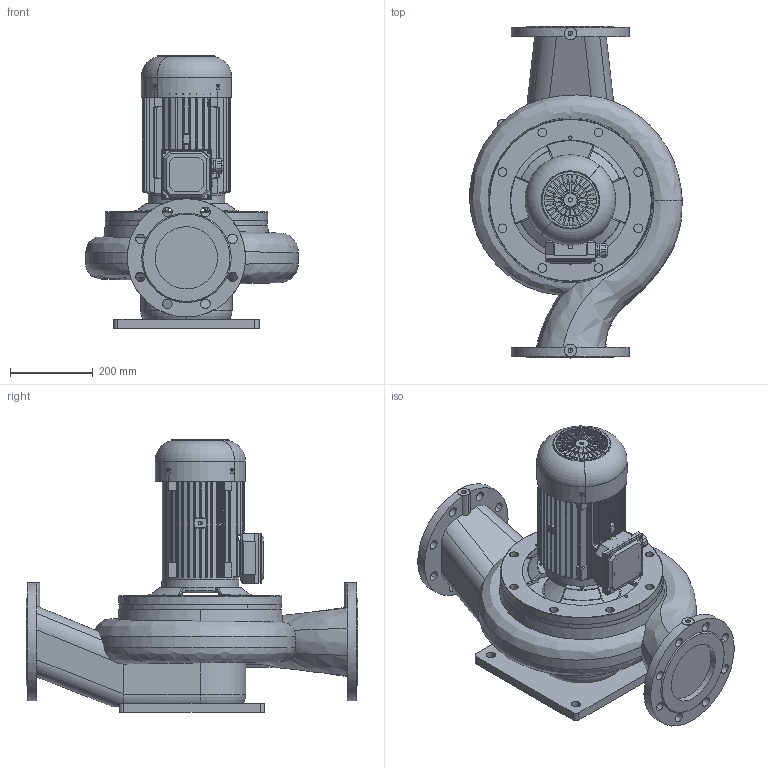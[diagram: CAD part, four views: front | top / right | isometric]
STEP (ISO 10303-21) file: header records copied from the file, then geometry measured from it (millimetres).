
FILE_DESCRIPTION(('STEP AP214'),'1');
FILE_NAME('export.stp','2018-05-28T12:03:01',(' '),(' '),'Spatial InterOp 3D',' ',' ');
FILE_SCHEMA(('AUTOMOTIVE_DESIGN { 1 0 10303 214 1 1 1 1 }'));
Length unit declared in the file: millimetre
Products named in the file (16): W_ALP11534400KP11; V_TLL100SAL1202; V_PPALP1153; PPALP1153_Kesken; Tukijalka_ALP1128; 440017; 440016; V_MKP112_2_F31; 480018; 480017; 440018; 440021; 480022; 480020; M25_Blind_Plug; M25_tiivisteholkk
Assembly tree (15 placements, depth 4):
  W_ALP11534400KP11
    V_TLL100SAL1202
    V_PPALP1153
      PPALP1153_Kesken
      Tukijalka_ALP1128
    V_MKP112_2_F31
      440017
        440016
      480018
        480017
      440018
      440021
      480022
      480020
      M25_Blind_Plug
      M25_tiivisteholkk
Bounding box: 513.06 x 800 x 657.4 mm (x, y, z)
Volume: 42564582.1 mm3; surface area: 2904392.6 mm2
Topology: 11 solids, 11 shells, 1581 faces, 4428 edges, 2912 vertices
Faces by surface type: cylinder 778, plane 521, cone 134, torus 117, bspline 31
Entity records: 63420 total; most frequent: CARTESIAN_POINT 19717, ORIENTED_EDGE 8840, DIRECTION 8529, EDGE_CURVE 4420, AXIS2_PLACEMENT_3D 3271, VERTEX_POINT 2912, LINE 1987, VECTOR 1987
